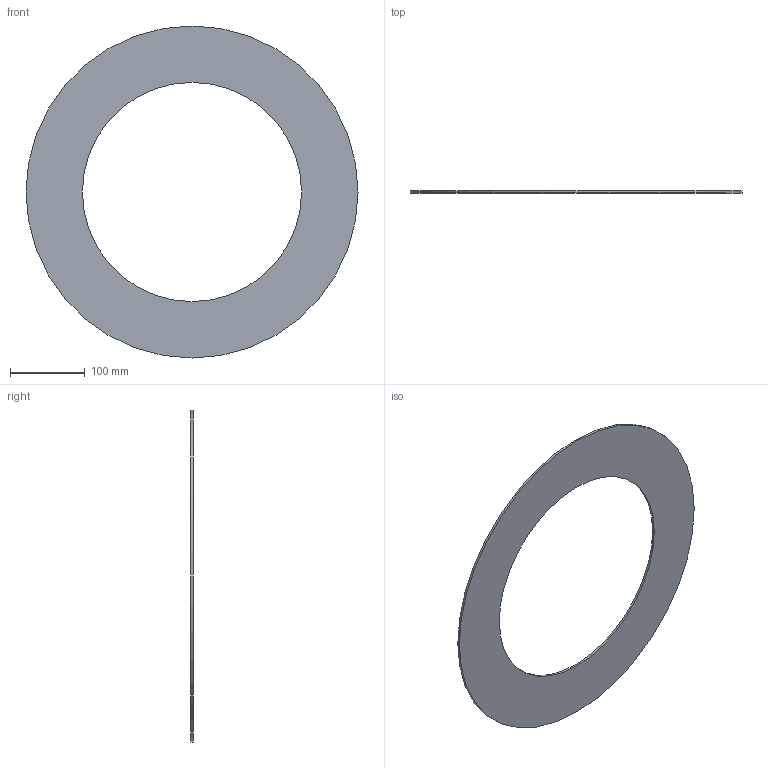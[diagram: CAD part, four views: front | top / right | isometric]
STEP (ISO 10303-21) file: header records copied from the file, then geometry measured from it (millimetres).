
FILE_DESCRIPTION(/* description */ ('Unknown'),/* implementation_level */ '2;1');
FILE_NAME(/* name */ 'GUA.355C',/* time_stamp */ '2021-04-01T12:51:24+02:00',/* author */ ('Unknown'),/* organization */ ('Unknown'),/* preprocessor_version */ 'ST-DEVELOPER v16.7',/* originating_system */ 'Solid Edge',/* authorisation */ 'Unknown');
FILE_SCHEMA (('AUTOMOTIVE_DESIGN {1 0 10303 214 3 1 1}'));
Length unit declared in the file: millimetre
Products named in the file (1): GUA.355C
Bounding box: 444 x 3 x 444 mm (x, y, z)
Volume: 262213.8 mm3; surface area: 181755.3 mm2
Topology: 1 solids, 1 shells, 4 faces, 6 edges, 4 vertices
Faces by surface type: cylinder 2, plane 2
Full cylindrical faces by diameter (mm): 293 x1, 444 x1
Entity records: 118 total; most frequent: DIRECTION 18, CARTESIAN_POINT 13, AXIS2_PLACEMENT_3D 9, ORIENTED_EDGE 8, EDGE_LOOP 8, FACE_BOUND 8, EDGE_CURVE 4, VERTEX_POINT 4
